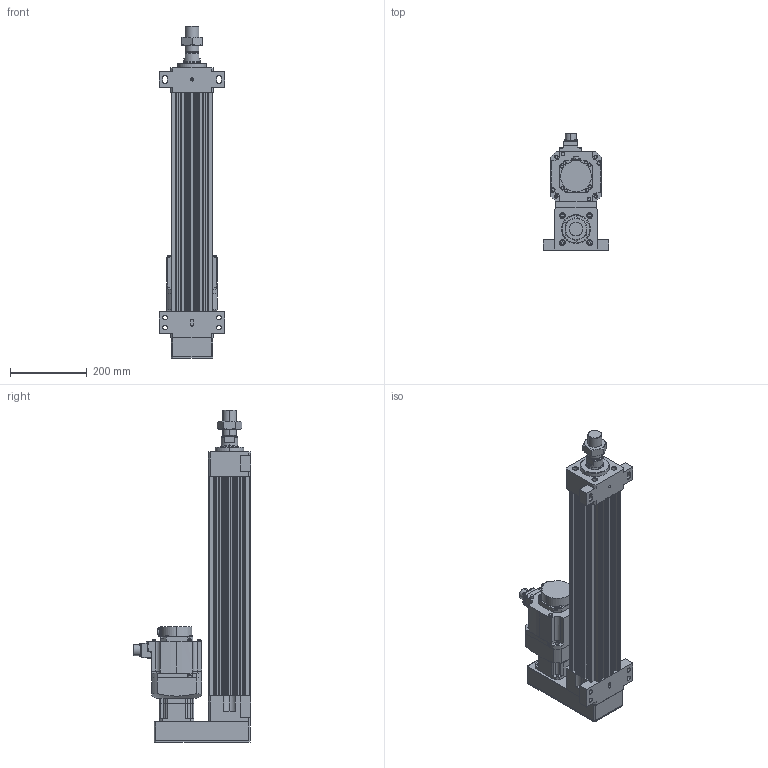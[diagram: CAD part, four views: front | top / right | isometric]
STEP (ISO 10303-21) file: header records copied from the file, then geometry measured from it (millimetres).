
FILE_DESCRIPTION (( 'STEP AP203' ), '1' );
FILE_NAME ('HES110NS(HS)-P400-W010G00-M-FFB.STEP', '2023-01-26T09:00:46', ( 'tms' ), ( '' ), 'SwSTEP 2.0', 'SolidWorks 2013', '' );
FILE_SCHEMA (( 'CONFIG_CONTROL_DESIGN' ));
Length unit declared in the file: millimetre
Products named in the file (8): M36X1.5P; HES110 ROD M ST400; AB0901; HG-SR102; AB090-003[HG-SR102B]; HES110NS(HS)-P400-W010G00-M-FFB; HES110-P400-G090-FFB; P0401301004
Assembly tree (7 placements, depth 3):
  HES110NS(HS)-P400-W010G00-M-FFB
    HES110-P400-G090-FFB
    HES110 ROD M ST400
    M36X1.5P
    HG-SR102
    AB090-003[HG-SR102B]
      AB0901
      P0401301004
Bounding box: 170 x 304.99 x 863 mm (x, y, z)
Volume: 8093497.3 mm3; surface area: 1032377.4 mm2
Topology: 4 solids, 11 shells, 1083 faces, 2775 edges, 1806 vertices
Faces by surface type: cylinder 501, plane 500, cone 70, bspline 8, torus 4
Entity records: 34904 total; most frequent: CARTESIAN_POINT 6854, DIRECTION 5982, ORIENTED_EDGE 5502, EDGE_CURVE 2761, AXIS2_PLACEMENT_3D 2205, VERTEX_POINT 1806, VECTOR 1572, LINE 1572
